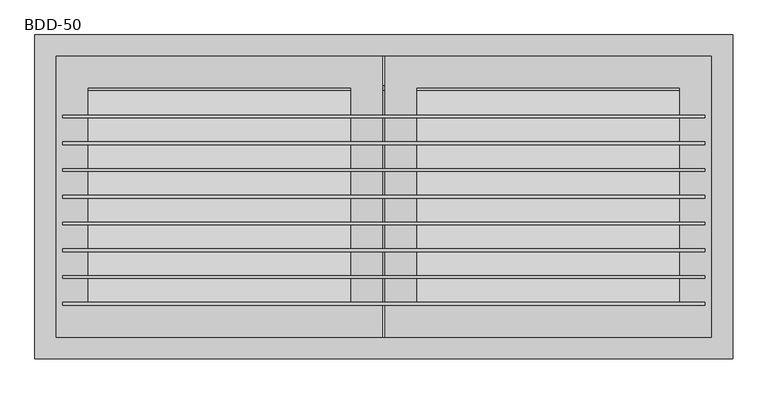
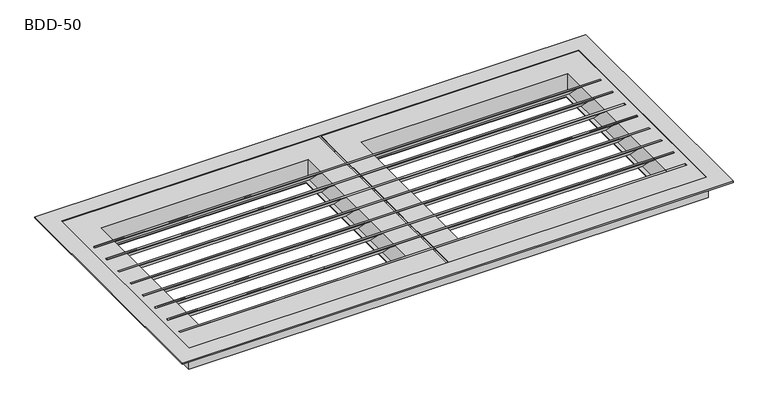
"""IFC4 building model written with IfcOpenShell, lengths in millimetres: air terminal geometry, AIR_FB_Steel lattice doors BDD_SMA : BDD-50."""

from ifc_helpers import new_model, si_unit, frame, origin, place, context, project, spatial, polyline, outline, extrude, faceted_brep, source, transform, mapped, element, save


def bdd_50_f3f2ff56(model_context):
    return source(origin(), model_context, "Body", "SolidModel", [
        extrude(outline(polyline([(147.5, 1.5428063), (152.5, 1.5428063), (199.0257471, -44.9829408), (207.500244, -44.9829408), (207.500244, -46.4571937), (197.5, -46.4571937), (150.999511, 0.0432953), (147.5, 0.0432953), (147.5, 1.5428063)])), frame((-600.0, 0.0, 0.0), z_axis=(1.0, 0.0, 0.0), x_axis=(0.0, 1.0, 0.0)), (0.0, 0.0, 1.0), 1200.0),
        extrude(outline(polyline([(97.5, 1.5428063), (102.5, 1.5428063), (149.0257471, -44.9829408), (157.500244, -44.9829408), (157.500244, -46.4571937), (147.5, -46.4571937), (100.999511, 0.0432953), (97.5, 0.0432953), (97.5, 1.5428063)])), frame((-600.0, 0.0, 0.0), z_axis=(1.0, 0.0, 0.0), x_axis=(0.0, 1.0, 0.0)), (0.0, 0.0, 1.0), 1200.0),
        extrude(outline(polyline([(47.5, 1.5428063), (52.5, 1.5428063), (99.0257471, -44.9829408), (107.500244, -44.9829408), (107.500244, -46.4571937), (97.5, -46.4571937), (50.999511, 0.0432953), (47.5, 0.0432953), (47.5, 1.5428063)])), frame((-600.0, 0.0, 0.0), z_axis=(1.0, 0.0, 0.0), x_axis=(0.0, 1.0, 0.0)), (0.0, 0.0, 1.0), 1200.0),
        extrude(outline(polyline([(-2.5, 1.5428063), (2.5, 1.5428063), (49.0257471, -44.9829408), (57.500244, -44.9829408), (57.500244, -46.4571937), (47.5, -46.4571937), (0.999511, 0.0432953), (-2.5, 0.0432953), (-2.5, 1.5428063)])), frame((-600.0, 0.0, 0.0), z_axis=(1.0, 0.0, 0.0), x_axis=(0.0, 1.0, 0.0)), (0.0, 0.0, 1.0), 1200.0),
        extrude(outline(polyline([(-52.5, 1.5428063), (-47.5, 1.5428063), (-0.9742529, -44.9829408), (7.500244, -44.9829408), (7.500244, -46.4571937), (-2.5, -46.4571937), (-49.000489, 0.0432953), (-52.5, 0.0432953), (-52.5, 1.5428063)])), frame((-600.0, 0.0, 0.0), z_axis=(1.0, 0.0, 0.0), x_axis=(0.0, 1.0, 0.0)), (0.0, 0.0, 1.0), 1200.0),
        extrude(outline(polyline([(-102.5, 1.5428063), (-97.5, 1.5428063), (-50.9742529, -44.9829408), (-42.499756, -44.9829408), (-42.499756, -46.4571937), (-52.5, -46.4571937), (-99.000489, 0.0432953), (-102.5, 0.0432953), (-102.5, 1.5428063)])), frame((-600.0, 0.0, 0.0), z_axis=(1.0, 0.0, 0.0), x_axis=(0.0, 1.0, 0.0)), (0.0, 0.0, 1.0), 1200.0),
        extrude(outline(polyline([(-152.5, 1.5428063), (-147.5, 1.5428063), (-100.9742529, -44.9829408), (-92.499756, -44.9829408), (-92.499756, -46.4571937), (-102.5, -46.4571937), (-149.000489, 0.0432953), (-152.5, 0.0432953), (-152.5, 1.5428063)])), frame((-600.0, 0.0, 0.0), z_axis=(1.0, 0.0, 0.0), x_axis=(0.0, 1.0, 0.0)), (0.0, 0.0, 1.0), 1200.0),
        extrude(outline(polyline([(-202.5, 1.5428063), (-197.5, 1.5428063), (-150.9742529, -44.9829408), (-142.499756, -44.9829408), (-142.499756, -46.4571937), (-152.5, -46.4571937), (-199.000489, 0.0432953), (-202.5, 0.0432953), (-202.5, 1.5428063)])), frame((-600.0, 0.0, 0.0), z_axis=(1.0, 0.0, 0.0), x_axis=(0.0, 1.0, 0.0)), (0.0, 0.0, 1.0), 1200.0),
        faceted_brep([(542.5, 192.5, -46.4571937), (542.5, 192.5, -48.0), (542.5, -192.5, -48.0), (542.5, -192.5, -46.4571937), (552.5, 202.5, 1.5428063), (552.5, 202.5, -46.4571937), (552.5, -202.5, -46.4571937), (552.5, -202.5, 1.5428063), (612.5, 262.5, 0.0), (612.5, 262.5, 1.5428063), (612.5, -262.5, 1.5428063), (612.5, -262.5, 0.0), (554.0, 204.0, -48.0), (554.0, 204.0, 0.0), (554.0, -204.0, 0.0), (554.0, -204.0, -48.0), (72.5, -192.5, -48.0), (72.5, -192.5, -46.4571937), (62.5, -202.5, -46.4571937), (62.5, -202.5, 1.5428063), (2.5, -262.5, 1.5428063), (2.5, -262.5, 0.0), (61.0, -204.0, 0.0), (61.0, -204.0, -48.0), (72.5, 192.5, -48.0), (72.5, 192.5, -46.4571937), (62.5, 202.5, -46.4571937), (62.5, 202.5, 1.5428063), (2.5, 262.5, 1.5428063), (2.5, 262.5, 0.0), (61.0, 204.0, 0.0), (61.0, 204.0, -48.0)], [[[0, 1, 2, 3]], [[4, 5, 6, 7]], [[8, 9, 10, 11]], [[12, 13, 14, 15]], [[3, 2, 16, 17]], [[7, 6, 18, 19]], [[11, 10, 20, 21]], [[15, 14, 22, 23]], [[17, 16, 24, 25]], [[19, 18, 26, 27]], [[21, 20, 28, 29]], [[23, 22, 30, 31]], [[15, 23, 31, 12], [1, 24, 16, 2]], [[25, 24, 1, 0]], [[5, 26, 18, 6], [3, 17, 25, 0]], [[27, 26, 5, 4]], [[9, 28, 20, 10], [7, 19, 27, 4]], [[29, 28, 9, 8]], [[11, 21, 29, 8], [13, 30, 22, 14]], [[31, 30, 13, 12]]]),
        faceted_brep([(652.5, 302.5, 0.0), (652.5, 302.5, 3.0), (652.5, -302.5, 3.0), (652.5, -302.5, 0.0), (615.5, 265.5, -48.0), (615.5, 265.5, 0.0), (615.5, -265.5, 0.0), (615.5, -265.5, -48.0), (612.5, 262.5, 3.0), (612.5, 262.5, -48.0), (612.5, -262.5, -48.0), (612.5, -262.5, 3.0), (-652.5, -302.5, 3.0), (-652.5, -302.5, 0.0), (-615.5, -265.5, 0.0), (-615.5, -265.5, -48.0), (-612.5, -262.5, -48.0), (-612.5, -262.5, 3.0), (-652.5, 302.5, 3.0), (-652.5, 302.5, 0.0), (-615.5, 265.5, 0.0), (-615.5, 265.5, -48.0), (-612.5, 262.5, -48.0), (-612.5, 262.5, 3.0)], [[[0, 1, 2, 3]], [[4, 5, 6, 7]], [[8, 9, 10, 11]], [[3, 2, 12, 13]], [[7, 6, 14, 15]], [[11, 10, 16, 17]], [[13, 12, 18, 19]], [[15, 14, 20, 21]], [[17, 16, 22, 23]], [[1, 18, 12, 2], [11, 17, 23, 8]], [[19, 18, 1, 0]], [[3, 13, 19, 0], [5, 20, 14, 6]], [[21, 20, 5, 4]], [[7, 15, 21, 4], [9, 22, 16, 10]], [[23, 22, 9, 8]]]),
        faceted_brep([(-552.5, 202.5, -46.5), (-552.5, 202.5, 1.5428063), (-552.5, -202.5, 1.5428063), (-552.5, -202.5, -46.5), (-542.5, 192.5, -48.0), (-542.5, 192.5, -46.5), (-542.5, -192.5, -46.5), (-542.5, -192.5, -48.0), (-554.0, 204.0, 0.0), (-554.0, 204.0, -48.0), (-554.0, -204.0, -48.0), (-554.0, -204.0, 0.0), (-612.5, 262.5, 1.5428063), (-612.5, 262.5, 0.0), (-612.5, -262.5, 0.0), (-612.5, -262.5, 1.5428063), (-62.5, -202.5, 1.5428063), (-62.5, -202.5, -46.5), (-72.5, -192.5, -46.5), (-72.5, -192.5, -48.0), (-61.0, -204.0, -48.0), (-61.0, -204.0, 0.0), (-2.5, -262.5, 0.0), (-2.5, -262.5, 1.5428063), (-62.5, 202.5, 1.5428063), (-62.5, 202.5, -46.5), (-72.5, 192.5, -46.5), (-72.5, 192.5, -48.0), (-61.0, 204.0, -48.0), (-61.0, 204.0, 0.0), (-2.5, 262.5, 0.0), (-2.5, 262.5, 1.5428063)], [[[0, 1, 2, 3]], [[4, 5, 6, 7]], [[8, 9, 10, 11]], [[12, 13, 14, 15]], [[3, 2, 16, 17]], [[7, 6, 18, 19]], [[11, 10, 20, 21]], [[15, 14, 22, 23]], [[17, 16, 24, 25]], [[19, 18, 26, 27]], [[21, 20, 28, 29]], [[23, 22, 30, 31]], [[15, 23, 31, 12], [1, 24, 16, 2]], [[25, 24, 1, 0]], [[3, 17, 25, 0], [5, 26, 18, 6]], [[27, 26, 5, 4]], [[9, 28, 20, 10], [7, 19, 27, 4]], [[29, 28, 9, 8]], [[13, 30, 22, 14], [11, 21, 29, 8]], [[31, 30, 13, 12]]]),
    ])


if __name__ == "__main__":
    model = new_model("IFC4")
    model_context = context("Model", 3, world=origin())
    ifc_project = project(units=[si_unit("LENGTHUNIT", "METRE", prefix="MILLI")], contexts=[model_context])
    site = spatial("IfcSite", under=ifc_project)
    building = spatial("IfcBuilding", under=site)
    placement = place(None, origin())
    bdd_50_shape = bdd_50_f3f2ff56(model_context)
    element("IfcAirTerminal", 1, ObjectType="AIR_FB_Steel lattice doors BDD_SMA : BDD-50", at=placement, inside=building, context=model_context, shape_type="MappedRepresentation", body=[
        mapped(bdd_50_shape, transform((0.0, 0.0, 0.0), x_axis=(1.0, 0.0, 0.0), y_axis=(0.0, 1.0, 0.0), z_axis=(0.0, 0.0, 1.0))),
    ])
    save(model, "model.ifc")
